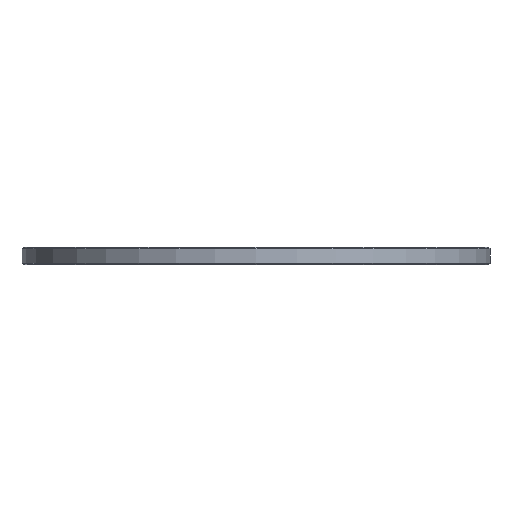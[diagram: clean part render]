
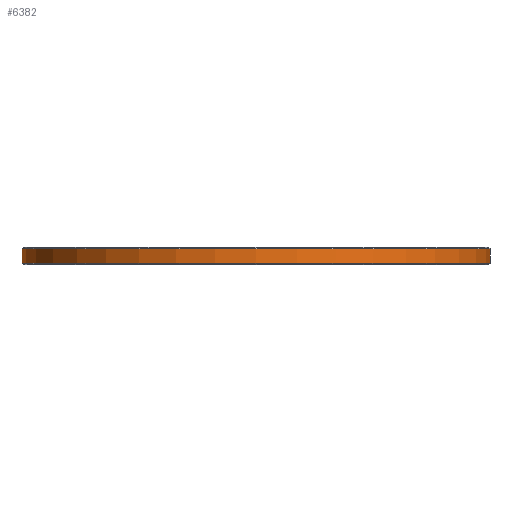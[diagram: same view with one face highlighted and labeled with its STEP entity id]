
A CAD part, front view. The second image highlights one B-rep face of the part: STEP entity #6382.
In plain terms, the highlighted cylindrical face has radius 42.188 mm (diameter 84.375 mm), a full revolution.
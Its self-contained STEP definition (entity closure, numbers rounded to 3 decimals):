
#71=CYLINDRICAL_SURFACE('',#6788,42.188);
#657=FACE_OUTER_BOUND('',#1028,.T.);
#1028=EDGE_LOOP('',(#5915,#5916,#5917,#5918));
#1118=CIRCLE('',#6787,42.188);
#1119=CIRCLE('',#6789,42.188);
#1923=LINE('',#10182,#2738);
#2738=VECTOR('',#8350,42.188);
#3324=VERTEX_POINT('',#10176);
#3325=VERTEX_POINT('',#10180);
#4190=EDGE_CURVE('',#3324,#3324,#1118,.T.);
#4192=EDGE_CURVE('',#3325,#3325,#1119,.T.);
#4193=EDGE_CURVE('',#3325,#3324,#1923,.T.);
#5915=ORIENTED_EDGE('',*,*,#4192,.F.);
#5916=ORIENTED_EDGE('',*,*,#4193,.T.);
#5917=ORIENTED_EDGE('',*,*,#4190,.F.);
#5918=ORIENTED_EDGE('',*,*,#4193,.F.);
#6382=ADVANCED_FACE('',(#657),#71,.T.);
#6787=AXIS2_PLACEMENT_3D('',#10177,#8343,#8344);
#6788=AXIS2_PLACEMENT_3D('',#10179,#8346,#8347);
#6789=AXIS2_PLACEMENT_3D('',#10181,#8348,#8349);
#8343=DIRECTION('center_axis',(0.,0.,-1.));
#8344=DIRECTION('ref_axis',(1.,0.,0.));
#8346=DIRECTION('center_axis',(0.,0.,1.));
#8347=DIRECTION('ref_axis',(1.,0.,0.));
#8348=DIRECTION('center_axis',(0.,0.,1.));
#8349=DIRECTION('ref_axis',(1.,0.,0.));
#8350=DIRECTION('',(0.,0.,-1.));
#10176=CARTESIAN_POINT('',(-42.188,0.,0.3));
#10177=CARTESIAN_POINT('Origin',(0.,0.,0.3));
#10179=CARTESIAN_POINT('Origin',(0.,0.,0.));
#10180=CARTESIAN_POINT('',(-42.188,0.,2.825));
#10181=CARTESIAN_POINT('Origin',(0.,0.,2.825));
#10182=CARTESIAN_POINT('',(-42.188,0.,0.));
